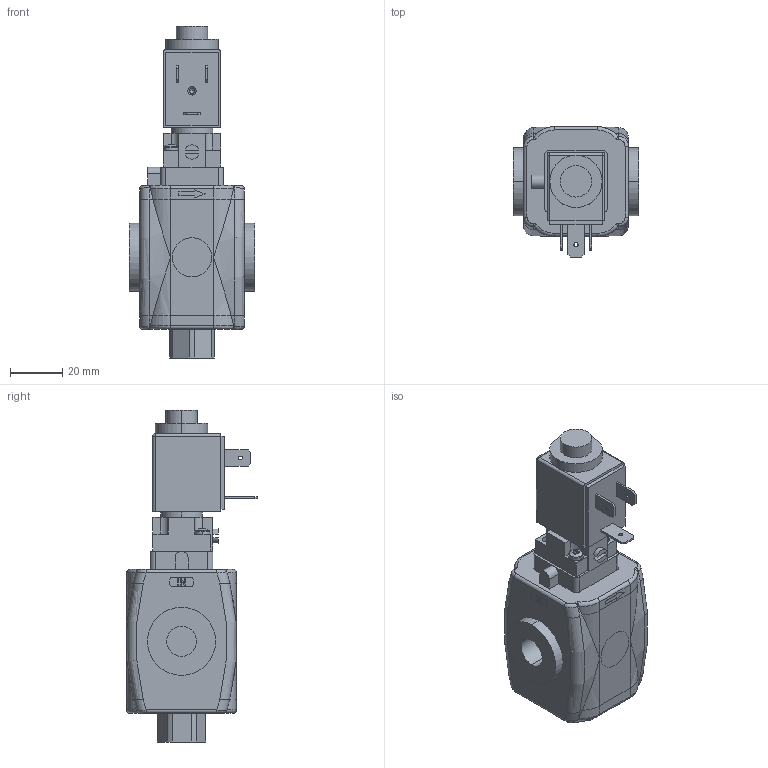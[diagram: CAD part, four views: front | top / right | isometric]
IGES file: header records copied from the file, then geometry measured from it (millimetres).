
Global section: file name: No Iges File Name specified; native system: Autodesk Inventor 2010; preprocessor: AutoDesk Inventor Iges Exporter R2010; author: valotma1; date: 20100823.141825; units: millimetre
Bounding box: 48 x 50 x 127 mm (x, y, z)
Volume: 123426.1 mm3; surface area: 24872.6 mm2
Topology: 5 solids, 5 shells, 435 faces, 1083 edges, 666 vertices
Faces by surface type: plane 179, bspline 88, cylinder 70, revolution 62, torus 28, cone 4, sphere 4
